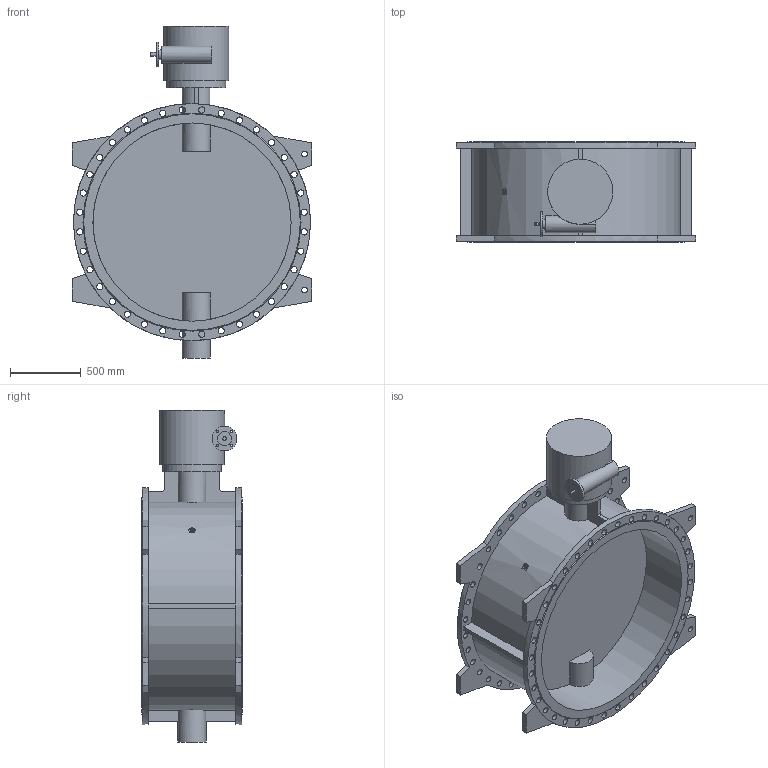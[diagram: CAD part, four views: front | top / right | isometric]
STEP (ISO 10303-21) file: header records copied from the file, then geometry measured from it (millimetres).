
FILE_DESCRIPTION(('STEP AP203'), '1');
FILE_NAME('Çàòâîð 023F.Z DN1400 PN10_ð-ð_ôë', '', ('UNSPECIFIED'), ('UNSPECIFIED'), 'ASCON STEP Converter 1.6', 'ASCON Math Kernel', '');
FILE_SCHEMA(('CONFIG_CONTROL_DESIGN'));
Length unit declared in the file: millimetre
Bounding box: 1690 x 710 x 2345 mm (x, y, z)
Volume: 421743259.1 mm3; surface area: 13919336.9 mm2
Topology: 1 solids, 1 shells, 231 faces, 592 edges, 394 vertices
Faces by surface type: cylinder 126, plane 103, cone 2
Full cylindrical faces by diameter (mm): 18 x4, 24 x1, 27 x8, 33 x8, 40 x4, 44 x72, 70 x1, 100 x1, 120 x1, 175 x1, 200 x1, 415 x1, 460 x1, 1400 x2, 1675 x2
Entity records: 9746 total; most frequent: CARTESIAN_POINT 2159, DIRECTION 1189, ORIENTED_EDGE 956, EDGE_LOOP 533, AXIS2_PLACEMENT_3D 499, EDGE_CURVE 478, VERTEX_POINT 393, FACE_BOUND 318
